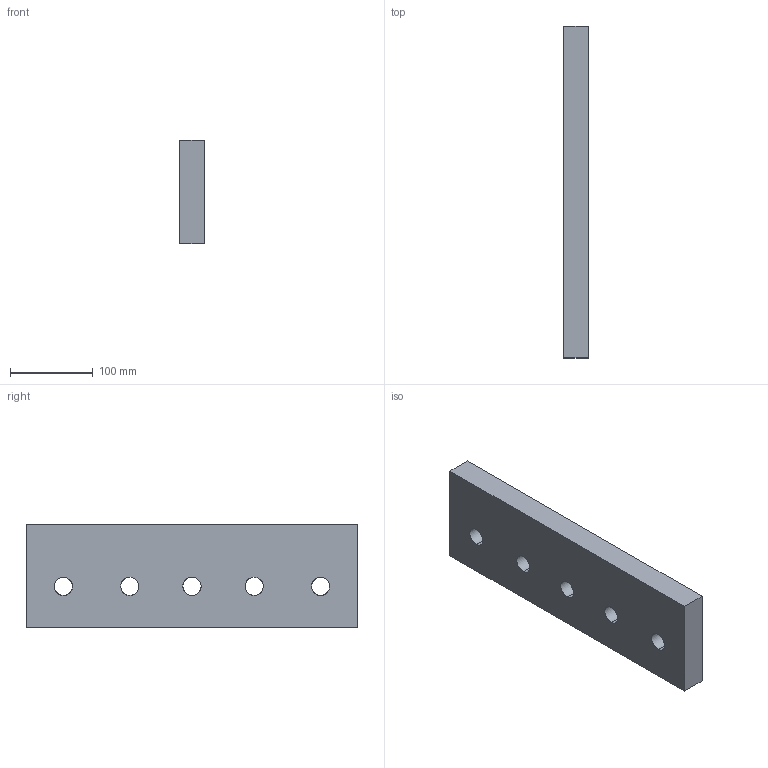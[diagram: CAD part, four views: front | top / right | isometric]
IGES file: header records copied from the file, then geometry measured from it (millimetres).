
Start section: START RECORD GO HERE.
Global section: file name: A612-125-400.igs; native system: DASSAULT SYSTEMES CATIA V5 R20 - www.3ds.com; preprocessor: CATIA Version 5 Release 20 ; author: Utente; organization: NB04-ASUS; date: 20200414.151235; units: millimetre
Bounding box: 30 x 400 x 125 mm (x, y, z)
Surface area: 138066 mm2 (no closed solid volume)
Topology: 0 solids, 0 shells, 16 faces, 84 edges, 84 vertices
Faces by surface type: revolution 10, extrusion 6
